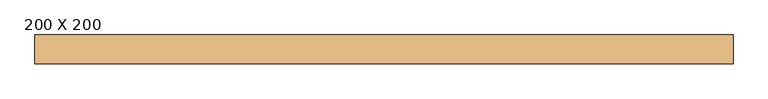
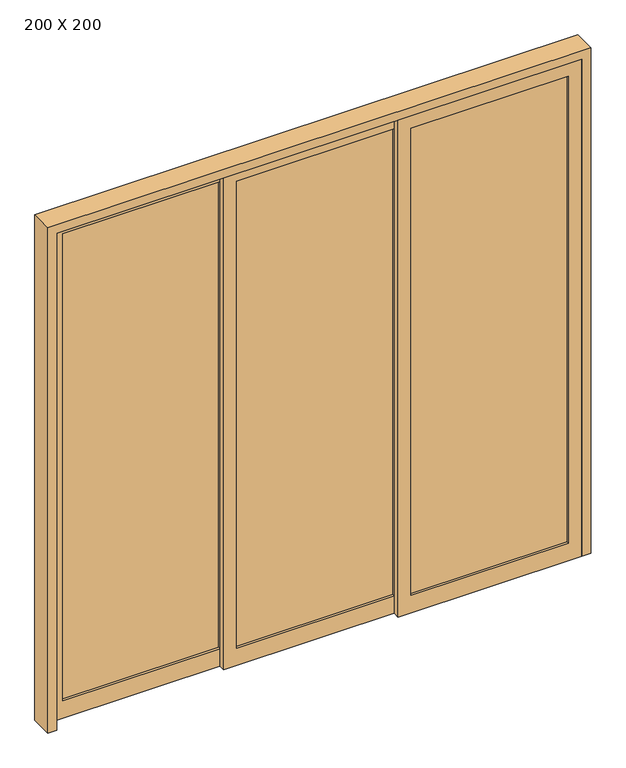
"""IFC4 building model written with IfcOpenShell, lengths in millimetres: door geometry, PORTA TELADA COM ESQUADRIA DE CORRER - 3 FOLHAS : 200 X 200."""

from ifc_helpers import new_model, si_unit, frame, origin, place, context, project, spatial, polyline, outline, extrude, source, transform, mapped, element, save


def door_200_x_200_0e187a38(model_context):
    return source(origin(), model_context, "Body", "SweptSolid", [
        extrude(outline(polyline([(957.881884, -59.5), (957.881884, -65.5), (357.881884, -65.5), (357.881884, -59.5), (957.881884, -59.5)])), frame((0.0, 0.0, 70.0), z_axis=(0.0, 0.0, 1.0), x_axis=(1.0, 0.0, 0.0)), (0.0, 0.0, 1.0), 1880.0),
        extrude(outline(polyline([(2000.0, 1007.881884), (2000.0, 307.881884), (0.0, 307.881884), (0.0, 1007.881884), (2000.0, 1007.881884)]), holes=[polyline([(1950.0, 957.881884), (70.0, 957.881884), (70.0, 357.881884), (1950.0, 357.881884), (1950.0, 957.881884)])]), frame((0.0, -75.0, 0.0), z_axis=(0.0, 1.0, 0.0), x_axis=(0.0, 0.0, 1.0)), (0.0, 0.0, 1.0), 25.0),
        extrude(outline(polyline([(307.881884, -34.5), (307.881884, -40.5), (-292.118116, -40.5), (-292.118116, -34.5), (307.881884, -34.5)])), frame((0.0, 0.0, 70.0), z_axis=(0.0, 0.0, 1.0), x_axis=(1.0, 0.0, 0.0)), (0.0, 0.0, 1.0), 1880.0),
        extrude(outline(polyline([(2000.0, 357.881884), (2000.0, -342.118116), (0.0, -342.118116), (0.0, 357.881884), (2000.0, 357.881884)]), holes=[polyline([(1950.0, 307.881884), (70.0, 307.881884), (70.0, -292.118116), (1950.0, -292.118116), (1950.0, 307.881884)])]), frame((0.0, -50.0, 0.0), z_axis=(0.0, 1.0, 0.0), x_axis=(0.0, 0.0, 1.0)), (0.0, 0.0, 1.0), 25.0),
        extrude(outline(polyline([(-942.118116, -15.5), (-942.118116, -9.5), (-342.118116, -9.5), (-342.118116, -15.5), (-942.118116, -15.5)])), frame((0.0, 0.0, 70.0), z_axis=(0.0, 0.0, 1.0), x_axis=(1.0, 0.0, 0.0)), (0.0, 0.0, 1.0), 1880.0),
        extrude(outline(polyline([(2000.0, -992.118116), (0.0, -992.118116), (0.0, -292.118116), (2000.0, -292.118116), (2000.0, -992.118116)]), holes=[polyline([(1950.0, -942.118116), (1950.0, -342.118116), (70.0, -342.118116), (70.0, -942.118116), (1950.0, -942.118116)])]), frame((0.0, -25.0, 0.0), z_axis=(0.0, 1.0, 0.0), x_axis=(0.0, 0.0, 1.0)), (0.0, 0.0, 1.0), 25.0),
        extrude(outline(polyline([(2035.0, -1027.118116), (0.0, -1027.118116), (0.0, -992.118116), (2000.0, -992.118116), (2000.0, 1007.881884), (0.0, 1007.881884), (0.0, 1042.881884), (2035.0, 1042.881884), (2035.0, -1027.118116)])), frame((0.0, -75.0, 0.0), z_axis=(0.0, 1.0, 0.0), x_axis=(0.0, 0.0, 1.0)), (0.0, 0.0, 1.0), 85.0),
    ])


if __name__ == "__main__":
    model = new_model("IFC4")
    model_context = context("Model", 3, world=origin())
    ifc_project = project(units=[si_unit("LENGTHUNIT", "METRE", prefix="MILLI")], contexts=[model_context])
    site = spatial("IfcSite", under=ifc_project)
    building = spatial("IfcBuilding", under=site)
    placement = place(None, origin())
    door_200_x_200_shape = door_200_x_200_0e187a38(model_context)
    element("IfcDoor", 1, ObjectType="PORTA TELADA COM ESQUADRIA DE CORRER - 3 FOLHAS : 200 X 200", at=placement, inside=building, context=model_context, shape_type="MappedRepresentation", body=[
        mapped(door_200_x_200_shape, transform((0.0, 0.0, 0.0), x_axis=(1.0, 0.0, 0.0), y_axis=(0.0, 1.0, 0.0), z_axis=(0.0, 0.0, 1.0))),
    ])
    save(model, "model.ifc")
